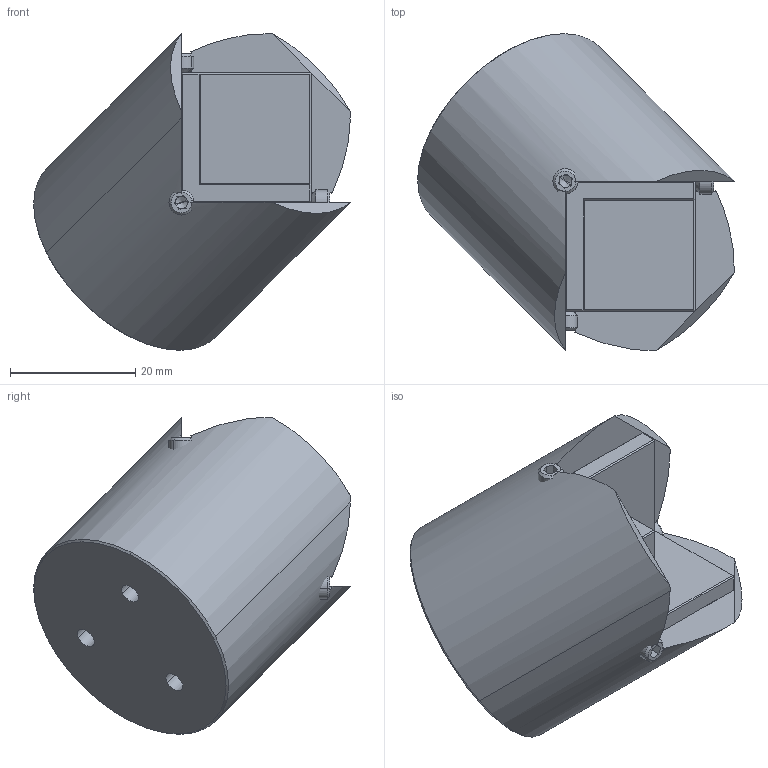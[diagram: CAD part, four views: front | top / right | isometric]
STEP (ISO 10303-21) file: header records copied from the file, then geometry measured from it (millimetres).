
FILE_DESCRIPTION (( 'STEP AP214' ), '1' );
FILE_NAME ('菁釱.STEP', '2026-09-29T09:17:53', ( '' ), ( '' ), 'SwSTEP 2.0', 'SolidWorks 2024', '' );
FILE_SCHEMA (( 'AUTOMOTIVE_DESIGN' ));
Length unit declared in the file: millimetre
Products named in the file (4): 外壳; 底座; lsp17-025-5-au.step; hex socket set screws with flat point gb_GB_FASTENER_SCREWS_HSFP M4X3-N
Assembly tree (5 placements, depth 2):
  底座
    外壳
    lsp17-025-5-au.step
    hex socket set screws with flat point gb_GB_FASTENER_SCREWS_HSFP M4X3-N  x3
Bounding box: 50.52 x 50.52 x 50.5 mm (x, y, z)
Volume: 35873.4 mm3; surface area: 10548.3 mm2
Topology: 5 solids, 5 shells, 162 faces, 367 edges, 209 vertices
Faces by surface type: plane 95, cylinder 36, cone 31
Entity records: 3377 total; most frequent: CARTESIAN_POINT 742, DIRECTION 537, ORIENTED_EDGE 518, EDGE_CURVE 259, AXIS2_PLACEMENT_3D 192, LINE 153, VECTOR 153, VERTEX_POINT 151
